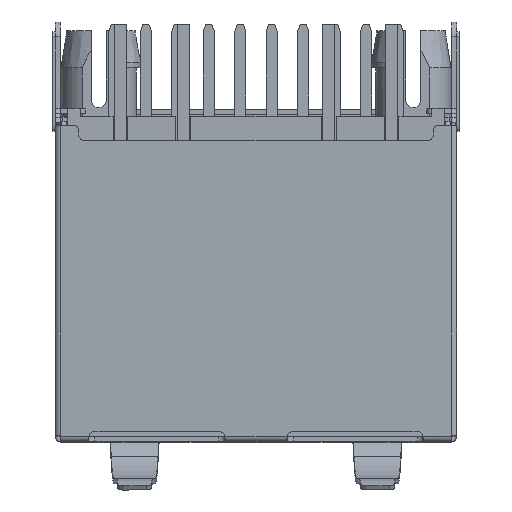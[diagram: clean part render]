
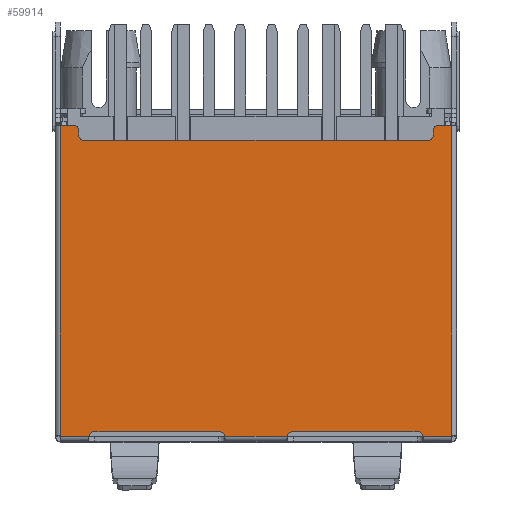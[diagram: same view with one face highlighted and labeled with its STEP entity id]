
A CAD part, top view. The second image highlights one B-rep face of the part: STEP entity #59914.
In plain terms, the highlighted planar face has unit normal (0, 0, 1).
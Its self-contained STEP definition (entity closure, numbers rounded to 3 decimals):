
#53770=CARTESIAN_POINT('',(6.745,-11.95,22.85));
#53772=DIRECTION('',(1.,0.,0.));
#53773=VECTOR('',#53772,1.155);
#53774=CARTESIAN_POINT('',(6.745,-11.95,22.85));
#53775=LINE('',#53774,#53773);
#54009=CARTESIAN_POINT('',(-7.35,0.4,22.85));
#54010=DIRECTION('',(0.,0.,-1.));
#54011=DIRECTION('',(0.,1.,0.));
#54012=AXIS2_PLACEMENT_3D('',#54009,#54010,#54011);
#54014=DIRECTION('',(0.,-1.,0.));
#54015=VECTOR('',#54014,0.2);
#54016=CARTESIAN_POINT('',(-7.15,0.4,22.85));
#54017=LINE('',#54016,#54015);
#54018=CARTESIAN_POINT('',(-6.95,0.2,22.85));
#54019=DIRECTION('',(0.,0.,1.));
#54020=DIRECTION('',(-1.,0.,0.));
#54021=AXIS2_PLACEMENT_3D('',#54018,#54019,#54020);
#54023=DIRECTION('',(1.,0.,0.));
#54024=VECTOR('',#54023,13.9);
#54025=CARTESIAN_POINT('',(-6.95,0.,22.85));
#54026=LINE('',#54025,#54024);
#54027=CARTESIAN_POINT('',(6.95,0.2,22.85));
#54028=DIRECTION('',(0.,0.,1.));
#54029=DIRECTION('',(0.,-1.,0.));
#54030=AXIS2_PLACEMENT_3D('',#54027,#54028,#54029);
#54032=DIRECTION('',(0.,1.,0.));
#54033=VECTOR('',#54032,0.2);
#54034=CARTESIAN_POINT('',(7.15,0.2,22.85));
#54035=LINE('',#54034,#54033);
#54036=CARTESIAN_POINT('',(7.35,0.4,22.85));
#54037=DIRECTION('',(0.,0.,-1.));
#54038=DIRECTION('',(-1.,0.,0.));
#54039=AXIS2_PLACEMENT_3D('',#54036,#54037,#54038);
#54041=DIRECTION('',(1.,0.,0.));
#54042=VECTOR('',#54041,0.55);
#54043=CARTESIAN_POINT('',(7.35,0.6,22.85));
#54044=LINE('',#54043,#54042);
#54045=DIRECTION('',(0.,-1.,0.));
#54046=VECTOR('',#54045,0.05);
#54047=CARTESIAN_POINT('',(7.9,-11.9,22.85));
#54048=LINE('',#54047,#54046);
#54049=CARTESIAN_POINT('',(6.5,-12.,22.85));
#54050=DIRECTION('',(0.,0.,1.));
#54051=DIRECTION('',(0.98,0.2,0.));
#54052=AXIS2_PLACEMENT_3D('',#54049,#54050,#54051);
#54054=DIRECTION('',(-1.,0.,0.));
#54055=VECTOR('',#54054,5.);
#54056=CARTESIAN_POINT('',(6.5,-11.75,22.85));
#54057=LINE('',#54056,#54055);
#54058=CARTESIAN_POINT('',(1.5,-12.,22.85));
#54059=DIRECTION('',(0.,0.,1.));
#54060=DIRECTION('',(0.,1.,0.));
#54061=AXIS2_PLACEMENT_3D('',#54058,#54059,#54060);
#54063=DIRECTION('',(-1.,0.,
0.));
#54064=VECTOR('',#54063,2.51);
#54065=CARTESIAN_POINT('',(1.255,-11.95,22.85));
#54066=LINE('',#54065,#54064);
#54067=CARTESIAN_POINT('',(-1.5,-12.,22.85));
#54068=DIRECTION('',(0.,0.,1.));
#54069=DIRECTION('',(0.98,0.2,0.));
#54070=AXIS2_PLACEMENT_3D('',#54067,#54068,#54069);
#54072=DIRECTION('',(-1.,0.,0.));
#54073=VECTOR('',#54072,5.);
#54074=CARTESIAN_POINT('',(-1.5,-11.75,22.85));
#54075=LINE('',#54074,#54073);
#54076=CARTESIAN_POINT('',(-6.5,-12.,22.85));
#54077=DIRECTION('',(0.,0.,1.));
#54078=DIRECTION('',(0.,1.,0.));
#54079=AXIS2_PLACEMENT_3D('',#54076,#54077,#54078);
#54081=DIRECTION('',(0.,1.,0.));
#54082=VECTOR('',#54081,0.05);
#54083=CARTESIAN_POINT('',(-7.9,-11.95,22.85));
#54084=LINE('',#54083,#54082);
#54085=DIRECTION('',(0.,1.,0.));
#54086=VECTOR('',#54085,12.5);
#54087=CARTESIAN_POINT('',(7.9,-11.9,22.85));
#54088=LINE('',#54087,#54086);
#54098=CARTESIAN_POINT('',(1.255,-11.95,22.85));
#54159=CARTESIAN_POINT('',(-1.255,-11.95,
22.85));
#54236=DIRECTION('',(1.,0.,0.));
#54237=VECTOR('',#54236,1.155);
#54238=CARTESIAN_POINT('',(-7.9,-11.95,22.85));
#54239=LINE('',#54238,#54237);
#54355=DIRECTION('',(-1.,0.,0.));
#54356=VECTOR('',#54355,0.55);
#54357=CARTESIAN_POINT('',(-7.35,0.6,22.85));
#54358=LINE('',#54357,#54356);
#54367=DIRECTION('',(0.,-1.,0.));
#54368=VECTOR('',#54367,12.5);
#54369=CARTESIAN_POINT('',(-7.9,0.6,22.85));
#54370=LINE('',#54369,#54368);
#56219=VERTEX_POINT('',#54098);
#56223=VERTEX_POINT('',#54159);
#56824=CARTESIAN_POINT('',(7.9,-11.95,22.85));
#56825=VERTEX_POINT('',#56824);
#56826=VERTEX_POINT('',#53770);
#56829=CARTESIAN_POINT('',(6.5,-11.75,22.85));
#56830=VERTEX_POINT('',#56829);
#56861=CARTESIAN_POINT('',(-7.15,0.4,22.85));
#56862=VERTEX_POINT('',#56861);
#56863=CARTESIAN_POINT('',(-7.35,0.6,22.85));
#56864=VERTEX_POINT('',#56863);
#56865=CARTESIAN_POINT('',(-7.15,0.2,22.85));
#56866=VERTEX_POINT('',#56865);
#56867=CARTESIAN_POINT('',(-6.95,0.,22.85));
#56868=VERTEX_POINT('',#56867);
#56869=CARTESIAN_POINT('',(6.95,0.,22.85));
#56870=VERTEX_POINT('',#56869);
#56871=CARTESIAN_POINT('',(7.15,0.2,22.85));
#56872=VERTEX_POINT('',#56871);
#56873=CARTESIAN_POINT('',(7.15,0.4,22.85));
#56874=VERTEX_POINT('',#56873);
#56875=CARTESIAN_POINT('',(7.35,0.6,22.85));
#56876=VERTEX_POINT('',#56875);
#56877=CARTESIAN_POINT('',(7.9,0.6,22.85));
#56878=VERTEX_POINT('',#56877);
#56915=CARTESIAN_POINT('',(7.9,-11.9,22.85));
#56916=VERTEX_POINT('',#56915);
#56917=CARTESIAN_POINT('',(1.5,-11.75,22.85));
#56918=VERTEX_POINT('',#56917);
#56919=CARTESIAN_POINT('',(-1.5,-11.75,22.85));
#56920=VERTEX_POINT('',#56919);
#56921=CARTESIAN_POINT('',(-6.5,-11.75,22.85));
#56922=VERTEX_POINT('',#56921);
#56923=CARTESIAN_POINT('',(-6.745,-11.95,22.85));
#56924=VERTEX_POINT('',#56923);
#56925=CARTESIAN_POINT('',(-7.9,-11.95,22.85));
#56926=VERTEX_POINT('',#56925);
#56927=CARTESIAN_POINT('',(-7.9,-11.9,22.85));
#56928=VERTEX_POINT('',#56927);
#56929=CARTESIAN_POINT('',(-7.9,0.6,22.85));
#56930=VERTEX_POINT('',#56929);
#59874=CARTESIAN_POINT('',(0.,-5.675,22.85));
#59875=DIRECTION('',(0.,0.,1.));
#59876=DIRECTION('',(0.,1.,0.));
#59877=AXIS2_PLACEMENT_3D('',#59874,#59875,#59876);
#59878=PLANE('',#59877);
#59879=ORIENTED_EDGE('',*,*,#59606,.T.);
#59880=ORIENTED_EDGE('',*,*,#59622,.T.);
#59881=ORIENTED_EDGE('',*,*,#59636,.T.);
#59882=ORIENTED_EDGE('',*,*,#59650,.T.);
#59883=ORIENTED_EDGE('',*,*,#59664,.T.);
#59884=ORIENTED_EDGE('',*,*,#59676,.T.);
#59885=ORIENTED_EDGE('',*,*,#59691,.T.);
#59886=ORIENTED_EDGE('',*,*,#59706,.T.);
#59888=ORIENTED_EDGE('',*,*,#59887,.F.);
#59889=ORIENTED_EDGE('',*,*,#59868,.T.);
#59890=ORIENTED_EDGE('',*,*,#59491,.F.);
#59891=ORIENTED_EDGE('',*,*,#59544,.T.);
#59893=ORIENTED_EDGE('',*,*,#59892,.T.);
#59895=ORIENTED_EDGE('',*,*,#59894,.T.);
#59897=ORIENTED_EDGE('',*,*,#59896,.T.);
#59899=ORIENTED_EDGE('',*,*,#59898,.T.);
#59901=ORIENTED_EDGE('',*,*,#59900,.T.);
#59903=ORIENTED_EDGE('',*,*,#59902,.T.);
#59905=ORIENTED_EDGE('',*,*,#59904,.F.);
#59907=ORIENTED_EDGE('',*,*,#59906,.T.);
#59909=ORIENTED_EDGE('',*,*,#59908,.F.);
#59911=ORIENTED_EDGE('',*,*,#59910,.F.);
#59912=EDGE_LOOP('',(#59879,#59880,#59881,#59882,#59883,#59884,#59885,#59886,
#59888,#59889,#59890,#59891,#59893,#59895,#59897,#59899,#59901,#59903,#59905,
#59907,#59909,#59911));
#59913=FACE_OUTER_BOUND('',#59912,.F.);
#59914=ADVANCED_FACE('',(#59913),#59878,.T.);
#54013=CIRCLE('',#54012,0.2);
#54022=CIRCLE('',#54021,0.2);
#54031=CIRCLE('',#54030,0.2);
#54040=CIRCLE('',#54039,0.2);
#54053=CIRCLE('',#54052,0.25);
#54062=CIRCLE('',#54061,0.25);
#54071=CIRCLE('',#54070,0.25);
#54080=CIRCLE('',#54079,0.25);
#59491=EDGE_CURVE('',#56826,#56825,#53775,.T.);
#59544=EDGE_CURVE('',#56826,#56830,#54053,.T.);
#59606=EDGE_CURVE('',#56864,#56862,#54013,.T.);
#59622=EDGE_CURVE('',#56862,#56866,#54017,.T.);
#59636=EDGE_CURVE('',#56866,#56868,#54022,.T.);
#59650=EDGE_CURVE('',#56868,#56870,#54026,.T.);
#59664=EDGE_CURVE('',#56870,#56872,#54031,.T.);
#59676=EDGE_CURVE('',#56872,#56874,#54035,.T.);
#59691=EDGE_CURVE('',#56874,#56876,#54040,.T.);
#59706=EDGE_CURVE('',#56876,#56878,#54044,.T.);
#59868=EDGE_CURVE('',#56916,#56825,#54048,.T.);
#59887=EDGE_CURVE('',#56916,#56878,#54088,.T.);
#59892=EDGE_CURVE('',#56830,#56918,#54057,.T.);
#59894=EDGE_CURVE('',#56918,#56219,#54062,.T.);
#59896=EDGE_CURVE('',#56219,#56223,#54066,.T.);
#59898=EDGE_CURVE('',#56223,#56920,#54071,.T.);
#59900=EDGE_CURVE('',#56920,#56922,#54075,.T.);
#59902=EDGE_CURVE('',#56922,#56924,#54080,.T.);
#59904=EDGE_CURVE('',#56926,#56924,#54239,.T.);
#59906=EDGE_CURVE('',#56926,#56928,#54084,.T.);
#59908=EDGE_CURVE('',#56930,#56928,#54370,.T.);
#59910=EDGE_CURVE('',#56864,#56930,#54358,.T.);
